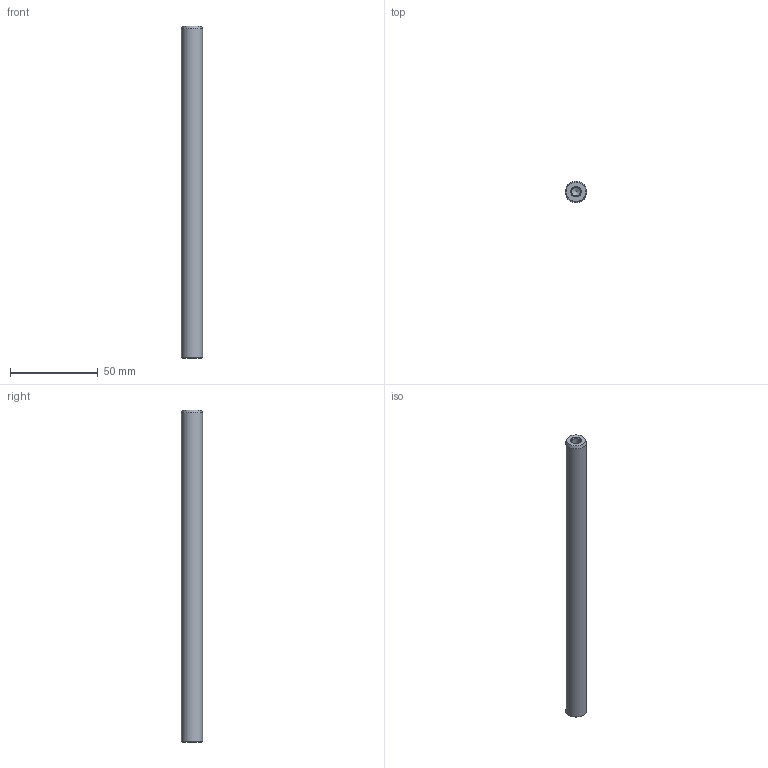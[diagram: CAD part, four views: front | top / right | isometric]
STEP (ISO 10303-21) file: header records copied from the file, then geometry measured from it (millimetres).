
FILE_DESCRIPTION( ( 'STEP AP214' ), '1' );
FILE_NAME( 'U:/Etudes/Top Solid/BIBLIO_Fournisseur/Colonnes UG/Ø12x189.step', '2004-12-22T12:33:45', ( ' ' ), ( ' ' ), 'XStep 1.0', ' ', ' ' );
FILE_SCHEMA( ( 'automotive_design' ) );
Length unit declared in the file: metre
Products named in the file (1): 1
Bounding box: 12 x 12 x 189 mm (x, y, z)
Volume: 20863.2 mm3; surface area: 7732.2 mm2
Topology: 1 solids, 1 shells, 13 faces, 27 edges, 16 vertices
Faces by surface type: cone 6, cylinder 5, plane 2
Full cylindrical faces by diameter (mm): 4.134 x2, 4.918 x2, 12 x1
Entity records: 382 total; most frequent: DIRECTION 52, CARTESIAN_POINT 40, AXIS2_PLACEMENT_3D 26, EDGE_LOOP 24, ORIENTED_EDGE 24, FACE_OUTER_BOUND 18, VERTEX_POINT 14, STYLED_ITEM 13
